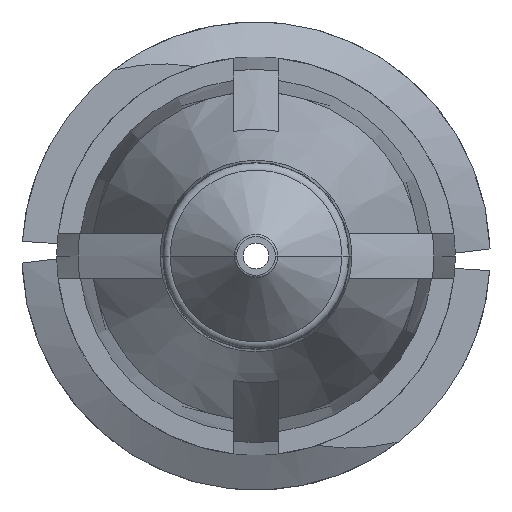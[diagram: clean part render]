
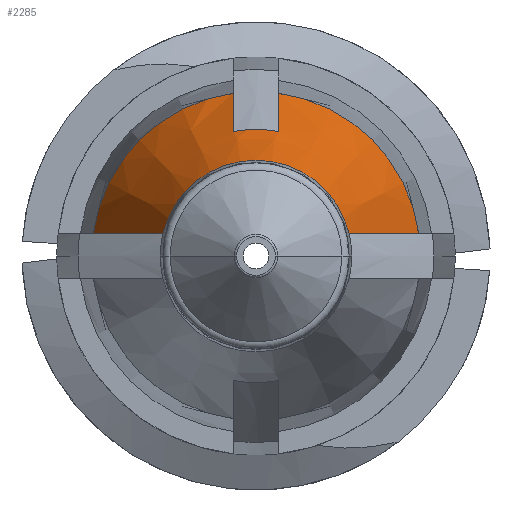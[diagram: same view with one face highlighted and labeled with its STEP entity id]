
A CAD part, front view. The second image highlights one B-rep face of the part: STEP entity #2285.
In plain terms, the highlighted conical face has half-angle 20 degrees and reference radius 2.745 mm.
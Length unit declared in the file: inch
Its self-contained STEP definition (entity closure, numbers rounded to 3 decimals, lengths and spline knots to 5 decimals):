
#4 = AXIS2_PLACEMENT_3D ( 'NONE', #882, #283, #3170 ) ;
#68 = DIRECTION ( 'NONE',  ( 1., 0., 0. ) ) ;
#82 = AXIS2_PLACEMENT_3D ( 'NONE', #1745, #2311, #3328 ) ;
#283 = DIRECTION ( 'NONE',  ( 0., 1., 0. ) ) ;
#480 = B_SPLINE_CURVE_WITH_KNOTS ( 'NONE', 3,
 ( #1418, #1155, #2458, #1410 ),
 .UNSPECIFIED., .F., .F.,
 ( 4, 4 ),
 ( 0.00247, 0.00431 ),
 .UNSPECIFIED. ) ;
#498 = CARTESIAN_POINT ( 'NONE',  ( 0.09185, -0.44732, 0.015 ) ) ;
#593 = CARTESIAN_POINT ( 'NONE',  ( -0.10703, -0.406, 0.015 ) ) ;
#602 = CARTESIAN_POINT ( 'NONE',  ( 0., -0.47395, 0. ) ) ;
#610 = CIRCLE ( 'NONE', #1045, 0.10808 ) ;
#637 = VERTEX_POINT ( 'NONE', #3317 ) ;
#663 = CARTESIAN_POINT ( 'NONE',  ( -0.10703, -0.406, 0.015 ) ) ;
#705 = ORIENTED_EDGE ( 'NONE', *, *, #1564, .F. ) ;
#711 = DIRECTION ( 'NONE',  ( -1., 0., 0. ) ) ;
#787 = CARTESIAN_POINT ( 'NONE',  ( 0.06119, -0.52985, 0.015 ) ) ;
#836 = CARTESIAN_POINT ( 'NONE',  ( -0.015, -0.47395, 0.08198 ) ) ;
#882 = CARTESIAN_POINT ( 'NONE',  ( 0., -0.406, 0. ) ) ;
#920 = VERTEX_POINT ( 'NONE', #836 ) ;
#968 = ORIENTED_EDGE ( 'NONE', *, *, #2610, .F. ) ;
#995 = CARTESIAN_POINT ( 'NONE',  ( 0., -0.52985, 0. ) ) ;
#1045 = AXIS2_PLACEMENT_3D ( 'NONE', #3142, #2318, #2619 ) ;
#1063 = EDGE_CURVE ( 'NONE', #1364, #2399, #2096, .T. ) ;
#1092 = CIRCLE ( 'NONE', #2629, 0.08335 ) ;
#1118 = CARTESIAN_POINT ( 'NONE',  ( -0.09185, -0.44732, 0.015 ) ) ;
#1155 = CARTESIAN_POINT ( 'NONE',  ( 0.015, -0.45131, 0.09036 ) ) ;
#1214 = EDGE_CURVE ( 'NONE', #3327, #637, #480, .T. ) ;
#1223 = EDGE_LOOP ( 'NONE', ( #968, #1322, #3238, #2386, #3176, #2958, #705, #2099 ) ) ;
#1267 = CARTESIAN_POINT ( 'NONE',  ( -0.015, -0.47395, 0.08198 ) ) ;
#1322 = ORIENTED_EDGE ( 'NONE', *, *, #1484, .T. ) ;
#1354 = EDGE_CURVE ( 'NONE', #920, #3327, #1092, .T. ) ;
#1364 = VERTEX_POINT ( 'NONE', #663 ) ;
#1410 = CARTESIAN_POINT ( 'NONE',  ( 0.015, -0.406, 0.10703 ) ) ;
#1418 = CARTESIAN_POINT ( 'NONE',  ( 0.015, -0.47395, 0.08198 ) ) ;
#1484 = EDGE_CURVE ( 'NONE', #2623, #2830, #1589, .T. ) ;
#1530 = VERTEX_POINT ( 'NONE', #2252 ) ;
#1564 = EDGE_CURVE ( 'NONE', #2399, #920, #3178, .T. ) ;
#1589 = CIRCLE ( 'NONE', #2361, 0.063 ) ;
#1615 = EDGE_CURVE ( 'NONE', #637, #1530, #610, .T. ) ;
#1745 = CARTESIAN_POINT ( 'NONE',  ( 0., -0.406, 0. ) ) ;
#1842 = CARTESIAN_POINT ( 'NONE',  ( -0.015, -0.406, 0.10703 ) ) ;
#1929 = CARTESIAN_POINT ( 'NONE',  ( -0.07664, -0.48863, 0.015 ) ) ;
#2072 = EDGE_CURVE ( 'NONE', #2830, #1530, #3024, .T. ) ;
#2094 = CARTESIAN_POINT ( 'NONE',  ( -0.015, -0.45131, 0.09036 ) ) ;
#2096 = CIRCLE ( 'NONE', #4, 0.10808 ) ;
#2099 = ORIENTED_EDGE ( 'NONE', *, *, #1063, .F. ) ;
#2252 = CARTESIAN_POINT ( 'NONE',  ( 0.10703, -0.406, 0.015 ) ) ;
#2285 = ADVANCED_FACE ( 'NONE', ( #3107 ), #2832, .T. ) ;
#2311 = DIRECTION ( 'NONE',  ( 0., 1., 0. ) ) ;
#2318 = DIRECTION ( 'NONE',  ( 0., 1., 0. ) ) ;
#2361 = AXIS2_PLACEMENT_3D ( 'NONE', #995, #3318, #711 ) ;
#2380 = CARTESIAN_POINT ( 'NONE',  ( 0.015, -0.47395, 0.08198 ) ) ;
#2386 = ORIENTED_EDGE ( 'NONE', *, *, #1615, .F. ) ;
#2399 = VERTEX_POINT ( 'NONE', #1842 ) ;
#2415 = DIRECTION ( 'NONE',  ( 0., 1., 0. ) ) ;
#2458 = CARTESIAN_POINT ( 'NONE',  ( 0.015, -0.42866, 0.0987 ) ) ;
#2610 = EDGE_CURVE ( 'NONE', #2623, #1364, #3373, .T. ) ;
#2619 = DIRECTION ( 'NONE',  ( -1., 0., 0. ) ) ;
#2623 = VERTEX_POINT ( 'NONE', #2986 ) ;
#2629 = AXIS2_PLACEMENT_3D ( 'NONE', #602, #2415, #68 ) ;
#2830 = VERTEX_POINT ( 'NONE', #787 ) ;
#2832 = CONICAL_SURFACE ( 'NONE', #82, 0.10808, 0.349 ) ;
#2842 = CARTESIAN_POINT ( 'NONE',  ( -0.015, -0.406, 0.10703 ) ) ;
#2854 = CARTESIAN_POINT ( 'NONE',  ( 0.06119, -0.52985, 0.015 ) ) ;
#2944 = CARTESIAN_POINT ( 'NONE',  ( -0.06119, -0.52985, 0.015 ) ) ;
#2958 = ORIENTED_EDGE ( 'NONE', *, *, #1354, .F. ) ;
#2986 = CARTESIAN_POINT ( 'NONE',  ( -0.06119, -0.52985, 0.015 ) ) ;
#3024 = B_SPLINE_CURVE_WITH_KNOTS ( 'NONE', 3,
 ( #2854, #3316, #498, #3047 ),
 .UNSPECIFIED., .F., .F.,
 ( 4, 4 ),
 ( 0.00282, 0.00617 ),
 .UNSPECIFIED. ) ;
#3047 = CARTESIAN_POINT ( 'NONE',  ( 0.10703, -0.406, 0.015 ) ) ;
#3107 = FACE_OUTER_BOUND ( 'NONE', #1223, .T. ) ;
#3114 = CARTESIAN_POINT ( 'NONE',  ( -0.015, -0.42866, 0.0987 ) ) ;
#3142 = CARTESIAN_POINT ( 'NONE',  ( 0., -0.406, 0. ) ) ;
#3170 = DIRECTION ( 'NONE',  ( -1., 0., 0. ) ) ;
#3176 = ORIENTED_EDGE ( 'NONE', *, *, #1214, .F. ) ;
#3178 = B_SPLINE_CURVE_WITH_KNOTS ( 'NONE', 3,
 ( #2842, #3114, #2094, #1267 ),
 .UNSPECIFIED., .F., .F.,
 ( 4, 4 ),
 ( 0.00343, 0.00527 ),
 .UNSPECIFIED. ) ;
#3238 = ORIENTED_EDGE ( 'NONE', *, *, #2072, .T. ) ;
#3316 = CARTESIAN_POINT ( 'NONE',  ( 0.07664, -0.48863, 0.015 ) ) ;
#3317 = CARTESIAN_POINT ( 'NONE',  ( 0.015, -0.406, 0.10703 ) ) ;
#3318 = DIRECTION ( 'NONE',  ( 0., 1., 0. ) ) ;
#3327 = VERTEX_POINT ( 'NONE', #2380 ) ;
#3328 = DIRECTION ( 'NONE',  ( -1., 0., 0. ) ) ;
#3373 = B_SPLINE_CURVE_WITH_KNOTS ( 'NONE', 3,
 ( #2944, #1929, #1118, #593 ),
 .UNSPECIFIED., .F., .F.,
 ( 4, 4 ),
 ( 0.00282, 0.00617 ),
 .UNSPECIFIED. ) ;
